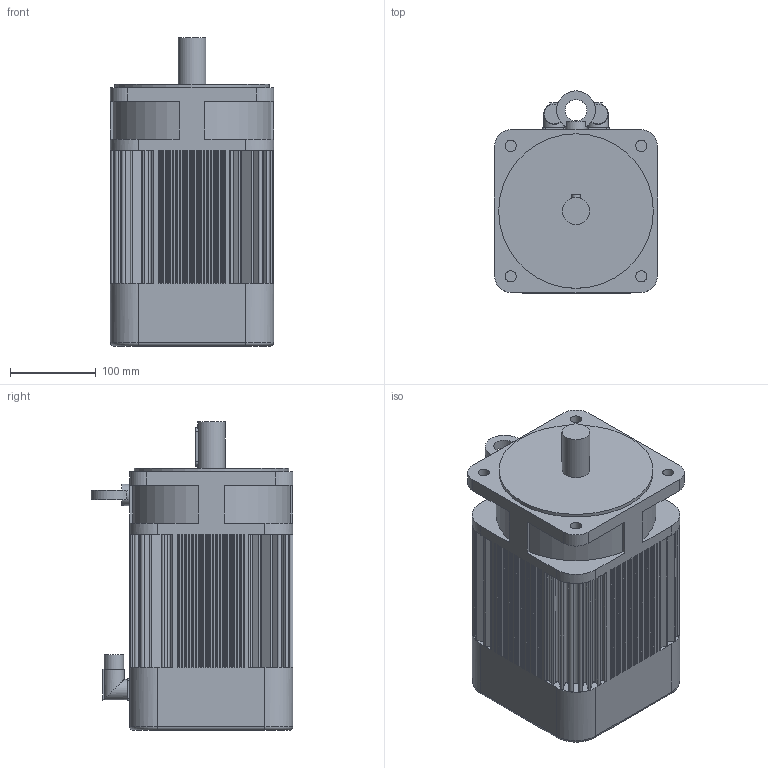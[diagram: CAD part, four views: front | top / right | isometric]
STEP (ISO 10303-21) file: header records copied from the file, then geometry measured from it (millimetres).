
FILE_DESCRIPTION(/* description */ (''),/* implementation_level */ '2;1');
FILE_NAME(/* name */ '\\Lafnas01\disegni\Archivi Lafert\3D\CAD 3D\MODELLI\Assiemi clienti\Serad\Modelli 3D Serad\B100I\Resolver\Res Without Brake\B1024Ixx6A052033.ipt.stp',/* time_stamp */ '2015-09-07T10:47:44+02:00',/* author */ ('Pastrello Ylenia'),/* organization */ (''),/* preprocessor_version */ 'ST-DEVELOPER v15.6',/* originating_system */ 'Autodesk Inventor 2015',/* authorisation */ '');
FILE_SCHEMA (('AUTOMOTIVE_DESIGN { 1 0 10303 214 3 1 1 }'));
Length unit declared in the file: millimetre
Products named in the file (1): B1024Ixx6A052033
Bounding box: 190 x 235 x 359 mm (x, y, z)
Volume: 10126793.9 mm3; surface area: 408233.9 mm2
Topology: 1 solids, 1 shells, 608 faces, 1497 edges, 980 vertices
Faces by surface type: plane 499, cylinder 105, torus 4
Full cylindrical faces by diameter (mm): 13 x4, 22.7 x2, 24 x2, 25 x2, 32 x1, 180 x1
Entity records: 17791 total; most frequent: CARTESIAN_POINT 3128, DIRECTION 2992, ORIENTED_EDGE 2962, EDGE_CURVE 1481, LINE 1180, VECTOR 1180, VERTEX_POINT 977, AXIS2_PLACEMENT_3D 906
